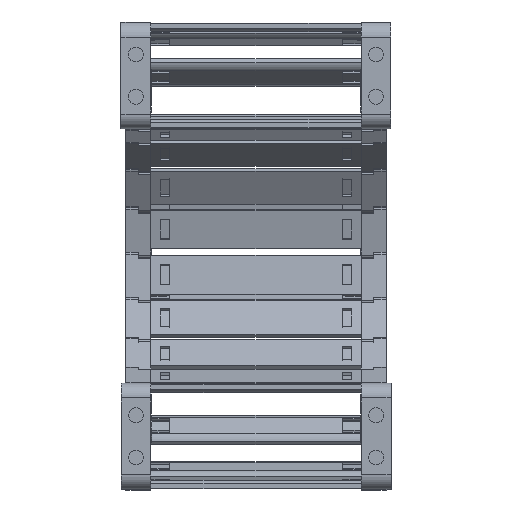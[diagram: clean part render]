
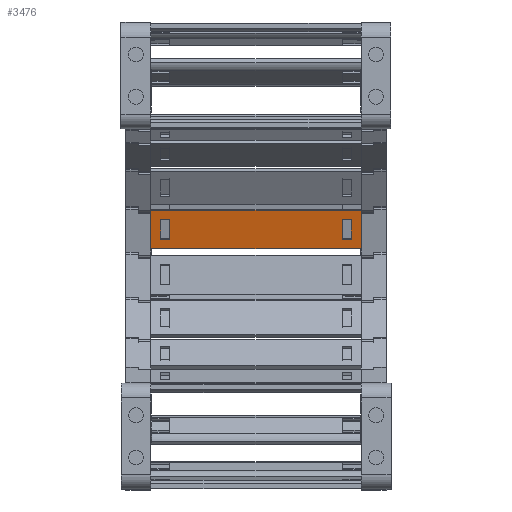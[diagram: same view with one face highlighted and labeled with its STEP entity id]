
A CAD part, left-side view. The second image highlights one B-rep face of the part: STEP entity #3476.
In plain terms, the highlighted planar face has unit normal (-0.976, 0, -0.216) as drawn and (0, 1, 0) by its records, which use the part's own axes.
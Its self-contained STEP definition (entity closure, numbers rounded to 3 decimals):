
#2845=DIRECTION('',(-1.,0.,0.));
#2846=VECTOR('',#2845,3.648);
#2847=CARTESIAN_POINT('',(66.17,1.5,4.075));
#2848=LINE('',#2847,#2846);
#2873=DIRECTION('',(1.,0.,0.));
#2874=VECTOR('',#2873,3.648);
#2875=CARTESIAN_POINT('',(62.522,1.5,-4.075));
#2876=LINE('',#2875,#2874);
#2910=DIRECTION('',(0.,0.,1.));
#2911=VECTOR('',#2910,8.15);
#2912=CARTESIAN_POINT('',(-7.142,1.5,-4.075));
#2913=LINE('',#2912,#2911);
#2931=DIRECTION('',(-1.,0.,0.));
#2932=VECTOR('',#2931,3.648);
#2933=CARTESIAN_POINT('',(-7.142,1.5,4.075));
#2934=LINE('',#2933,#2932);
#2945=DIRECTION('',(1.,0.,0.));
#2946=VECTOR('',#2945,84.9);
#2947=CARTESIAN_POINT('',(-14.76,1.5,-7.9));
#2948=LINE('',#2947,#2946);
#2952=DIRECTION('',(0.,0.,1.));
#2953=VECTOR('',#2952,8.15);
#2954=CARTESIAN_POINT('',(62.522,1.5,-4.075));
#2955=LINE('',#2954,#2953);
#2966=DIRECTION('',(0.,0.,-1.));
#2967=VECTOR('',#2966,15.8);
#2968=CARTESIAN_POINT('',(70.14,1.5,7.9));
#2969=LINE('',#2968,#2967);
#3019=DIRECTION('',(1.,0.,0.));
#3020=VECTOR('',#3019,84.9);
#3021=CARTESIAN_POINT('',(-14.76,1.5,7.9));
#3022=LINE('',#3021,#3020);
#3026=DIRECTION('',(0.,0.,1.));
#3027=VECTOR('',#3026,15.8);
#3028=CARTESIAN_POINT('',(-14.76,1.5,-7.9));
#3029=LINE('',#3028,#3027);
#3128=DIRECTION('',(0.,0.,-1.));
#3129=VECTOR('',#3128,8.15);
#3130=CARTESIAN_POINT('',(-10.79,1.5,4.075));
#3131=LINE('',#3130,#3129);
#3156=DIRECTION('',(1.,0.,0.));
#3157=VECTOR('',#3156,3.648);
#3158=CARTESIAN_POINT('',(-10.79,1.5,-4.075));
#3159=LINE('',#3158,#3157);
#3212=DIRECTION('',(0.,0.,1.));
#3213=VECTOR('',#3212,8.15);
#3214=CARTESIAN_POINT('',(66.17,1.5,-4.075));
#3215=LINE('',#3214,#3213);
#3231=CARTESIAN_POINT('',(66.17,1.5,4.075));
#3232=VERTEX_POINT('',#3231);
#3233=CARTESIAN_POINT('',(62.522,1.5,4.075));
#3234=VERTEX_POINT('',#3233);
#3242=CARTESIAN_POINT('',(70.14,1.5,7.9));
#3244=VERTEX_POINT('',#3242);
#3245=CARTESIAN_POINT('',(70.14,1.5,-7.9));
#3246=VERTEX_POINT('',#3245);
#3255=CARTESIAN_POINT('',(62.522,1.5,-4.075));
#3256=VERTEX_POINT('',#3255);
#3257=CARTESIAN_POINT('',(66.17,1.5,-4.075));
#3258=VERTEX_POINT('',#3257);
#3260=CARTESIAN_POINT('',(-14.76,1.5,7.9));
#3262=VERTEX_POINT('',#3260);
#3263=CARTESIAN_POINT('',(-14.76,1.5,-7.9));
#3264=VERTEX_POINT('',#3263);
#3275=CARTESIAN_POINT('',(-7.142,1.5,-4.075));
#3276=CARTESIAN_POINT('',(-7.142,1.5,4.075));
#3277=VERTEX_POINT('',#3275);
#3278=VERTEX_POINT('',#3276);
#3279=CARTESIAN_POINT('',(-10.79,1.5,-4.075));
#3280=VERTEX_POINT('',#3279);
#3281=CARTESIAN_POINT('',(-10.79,1.5,4.075));
#3282=VERTEX_POINT('',#3281);
#3446=CARTESIAN_POINT('',(101.88,1.5,10.061));
#3447=DIRECTION('',(0.,-1.,0.));
#3448=DIRECTION('',(0.,0.,-1.));
#3449=AXIS2_PLACEMENT_3D('',#3446,#3447,#3448);
#3450=PLANE('',#3449);
#3452=ORIENTED_EDGE('',*,*,#3451,.F.);
#3454=ORIENTED_EDGE('',*,*,#3453,.F.);
#3456=ORIENTED_EDGE('',*,*,#3455,.F.);
#3458=ORIENTED_EDGE('',*,*,#3457,.T.);
#3459=EDGE_LOOP('',(#3452,#3454,#3456,#3458));
#3460=FACE_OUTER_BOUND('',#3459,.F.);
#3461=ORIENTED_EDGE('',*,*,#3325,.T.);
#3462=ORIENTED_EDGE('',*,*,#3303,.F.);
#3464=ORIENTED_EDGE('',*,*,#3463,.F.);
#3465=ORIENTED_EDGE('',*,*,#3345,.F.);
#3466=EDGE_LOOP('',(#3461,#3462,#3464,#3465));
#3467=FACE_BOUND('',#3466,.F.);
#3468=ORIENTED_EDGE('',*,*,#3409,.F.);
#3470=ORIENTED_EDGE('',*,*,#3469,.F.);
#3472=ORIENTED_EDGE('',*,*,#3471,.F.);
#3473=ORIENTED_EDGE('',*,*,#3428,.F.);
#3474=EDGE_LOOP('',(#3468,#3470,#3472,#3473));
#3475=FACE_BOUND('',#3474,.F.);
#3476=ADVANCED_FACE('',(#3460,#3467,#3475),#3450,.F.);
#3303=EDGE_CURVE('',#3232,#3234,#2848,.T.);
#3325=EDGE_CURVE('',#3256,#3234,#2955,.T.);
#3345=EDGE_CURVE('',#3256,#3258,#2876,.T.);
#3409=EDGE_CURVE('',#3277,#3278,#2913,.T.);
#3428=EDGE_CURVE('',#3278,#3282,#2934,.T.);
#3451=EDGE_CURVE('',#3244,#3246,#2969,.T.);
#3453=EDGE_CURVE('',#3262,#3244,#3022,.T.);
#3455=EDGE_CURVE('',#3264,#3262,#3029,.T.);
#3457=EDGE_CURVE('',#3264,#3246,#2948,.T.);
#3463=EDGE_CURVE('',#3258,#3232,#3215,.T.);
#3469=EDGE_CURVE('',#3280,#3277,#3159,.T.);
#3471=EDGE_CURVE('',#3282,#3280,#3131,.T.);
